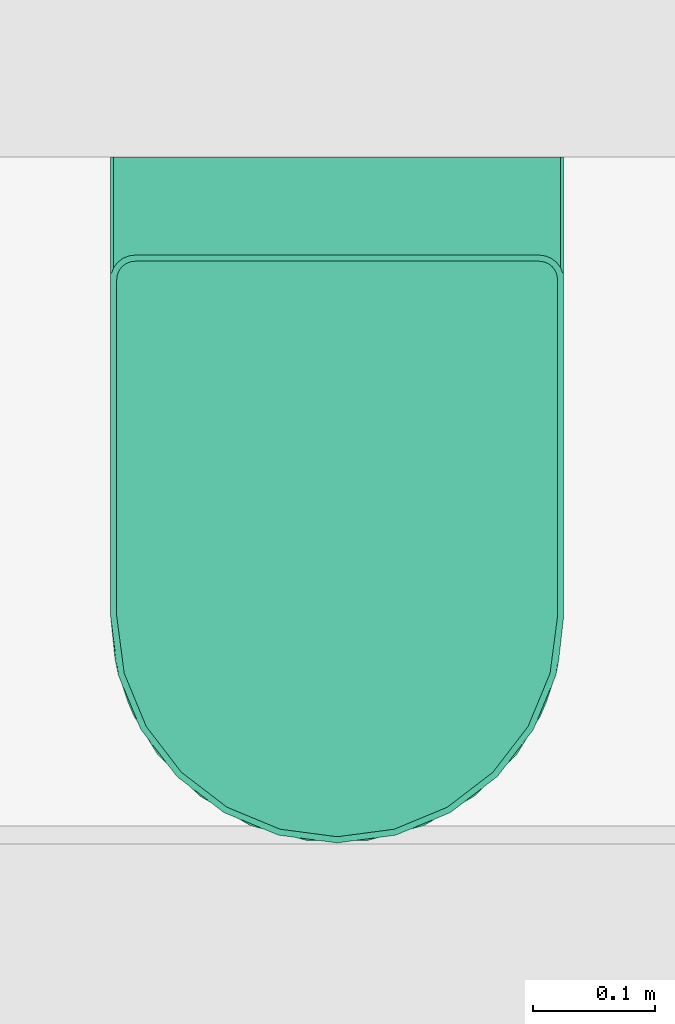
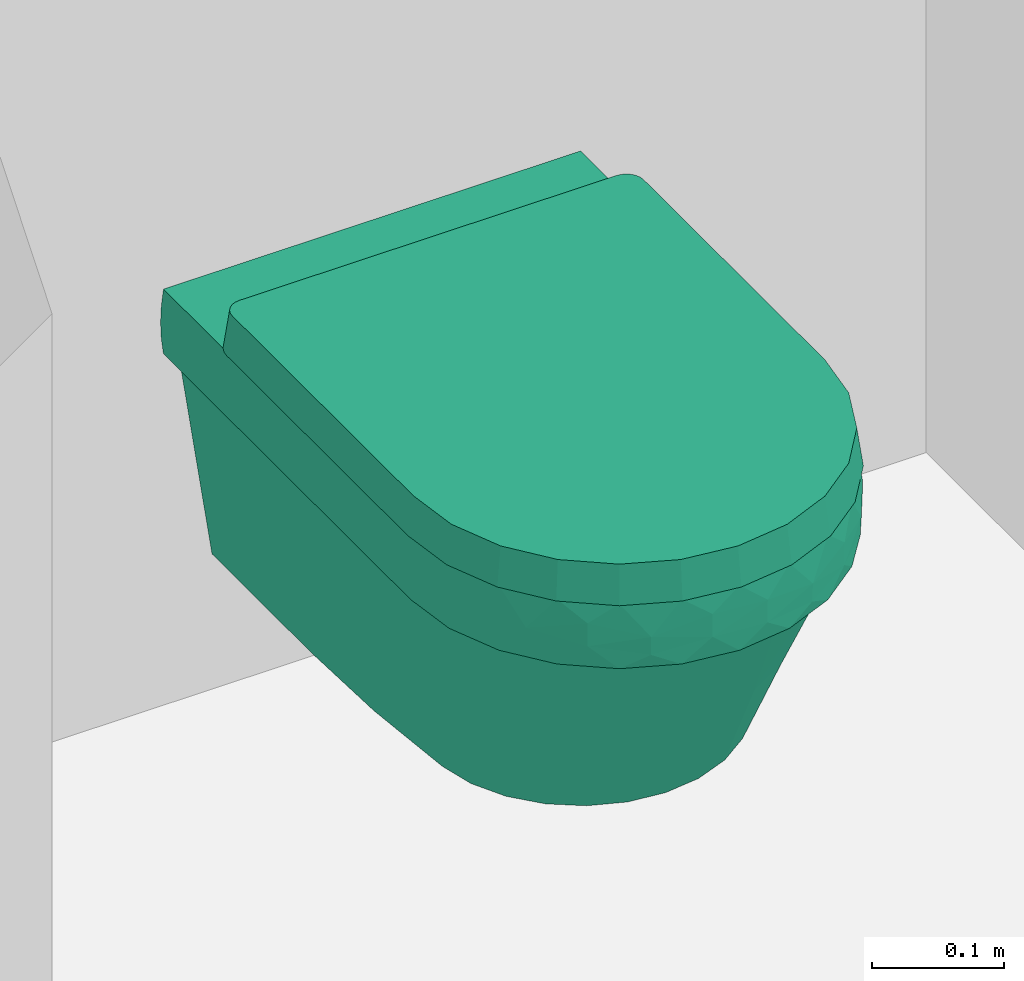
# One storey, part 30 of 57: 1 flow terminal.
"""IFC2X3 building model written with IfcOpenShell, lengths in millimetres."""

from ifc_helpers import new_model, entity, si_unit, converted_unit, direction, frame, origin, place, context, subcontext, project, spatial, faceted_brep, source, transform, mapped, material, type_object, type_shapes, element, save


model = new_model("IFC2X3")

# Units and contexts
model_context = context("Model", 3, precision=0.01, world=origin(), true_north=direction((6.123233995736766e-17, 1.0)))
plan_context = context("Plan", 3, precision=0.01, world=origin(), true_north=direction((6.123233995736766e-17, 1.0)))
body_context = subcontext(model_context, "Body", "Model", "MODEL_VIEW")
ifc_project = project(units=[si_unit("LENGTHUNIT", "METRE", prefix="MILLI"), converted_unit("PLANEANGLEUNIT", "DEGREE", entity("IfcPlaneAngleMeasure", 0.017453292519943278), si_unit("PLANEANGLEUNIT", "RADIAN"), dimensions=[0, 0, 0, 0, 0, 0, 0]), si_unit("AREAUNIT", "SQUARE_METRE")], contexts=[model_context, plan_context])

# Site, building, storey, space
site_placement = place(None, origin())
site = spatial("IfcSite", under=ifc_project, at=site_placement, Name="Default", CompositionType="ELEMENT")
building_placement = place(site_placement, origin())
building = spatial("IfcBuilding", under=site, at=building_placement, CompositionType="ELEMENT")
storey_placement = place(building_placement, frame((0.0, 0.0, 12811.000000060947)))
storey = spatial("IfcBuildingStorey", under=building, at=storey_placement, Name="5K", CompositionType="ELEMENT", Elevation=12811.000000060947)
space_placement = place(storey_placement, origin())
space = spatial("IfcSpace", under=storey, at=space_placement, Name="5-12.8", CompositionType="ELEMENT", InteriorOrExteriorSpace="INTERNAL")

# Flow terminal
ifc_material = material(Name="<Unnamed>")
distribution_element_type = type_object("IfcDistributionElementType", Name="HR_Plumbing-fixtures_Toilet_Generic_v3:Default", material=ifc_material)
shared_shape = source(origin(), body_context, "Body", "Brep", [
    faceted_brep([(92.50000000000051, -535.2146997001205, -12446.000000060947), (47.88152334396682, -553.6962778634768, -12446.000000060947), (0.0, -560.0, -12446.000000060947), (-47.8815233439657, -553.6962778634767, -12446.000000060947), (-92.4999999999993, -535.21469970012, -12446.000000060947), (-130.81475451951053, -505.81475451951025, -12446.000000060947), (-160.21469970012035, -467.49999999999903, -12446.000000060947), (-178.6962778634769, -422.8815233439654, -12446.000000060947), (-185.0, -375.0, -12446.000000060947), (-185.0, -100.0, -12446.000000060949), (-184.31851652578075, -94.82361909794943, -12446.000000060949), (-182.32050807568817, -90.0, -12446.000000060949), (-179.14213562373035, -85.85786437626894, -12446.000000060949), (-175.0, -82.67949192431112, -12446.000000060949), (-170.17638090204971, -80.68148347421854, -12446.000000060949), (-165.0, -80.0, -12446.000000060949), (165.0, -80.0, -12446.000000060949), (170.17638090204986, -80.68148347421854, -12446.000000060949), (175.0, -82.67949192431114, -12446.000000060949), (179.14213562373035, -85.85786437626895, -12446.000000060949), (182.32050807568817, -90.0, -12446.000000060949), (184.31851652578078, -94.82361909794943, -12446.000000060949), (185.0, -100.0, -12446.000000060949), (185.0, -375.0, -12446.000000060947), (178.69627786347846, -422.8815233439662, -12446.000000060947), (160.2146997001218, -467.4999999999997, -12446.000000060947), (130.81475451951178, -505.8147545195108, -12446.000000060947), (165.0, -85.0, -12411.000000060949), (-165.0, -85.0, -12411.000000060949), (-168.88228567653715, -85.51111260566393, -12411.000000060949), (-172.49999999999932, -87.00961894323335, -12411.000000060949), (-175.6066017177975, -89.39339828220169, -12411.000000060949), (-177.99038105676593, -92.49999999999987, -12411.000000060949), (-179.4888873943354, -96.11771432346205, -12411.000000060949), (-180.0, -100.0, -12411.000000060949), (-180.0, -375.0, -12411.000000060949), (-173.8666487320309, -421.58742811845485, -12411.000000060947), (-155.88457268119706, -465.0, -12411.000000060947), (-127.27922061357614, -502.2792206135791, -12411.000000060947), (-90.0, -530.8845726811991, -12411.000000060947), (-46.58742811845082, -548.8666487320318, -12411.000000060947), (0.0, -555.0, -12411.000000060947), (46.58742811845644, -548.8666487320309, -12411.000000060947), (90.0, -530.884572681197, -12411.000000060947), (127.27922061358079, -502.27922061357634, -12411.000000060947), (155.88457268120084, -465.0, -12411.000000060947), (173.86664873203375, -421.5874281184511, -12411.000000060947), (180.0, -375.0, -12411.000000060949), (180.0, -100.0, -12411.000000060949), (179.48888739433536, -96.11771432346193, -12411.000000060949), (177.99038105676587, -92.49999999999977, -12411.000000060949), (175.60660171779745, -89.39339828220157, -12411.000000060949), (172.4999999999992, -87.00961894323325, -12411.000000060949), (168.88228567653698, -85.51111260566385, -12411.000000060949)], [[[0, 1, 2, 3, 4, 5, 6, 7, 8, 9, 10, 11, 12, 13, 14, 15, 16, 17, 18, 19, 20, 21, 22, 23, 24, 25, 26]], [[27, 28, 29, 30, 31, 32, 33, 34, 35, 36, 37, 38, 39, 40, 41, 42, 43, 44, 45, 46, 47, 48, 49, 50, 51, 52, 53]], [[34, 33, 10, 9]], [[12, 11, 32, 31]], [[11, 10, 33, 32]], [[13, 30, 29, 14]], [[14, 29, 28, 15]], [[12, 31, 30, 13]], [[15, 28, 27, 16]], [[27, 53, 17, 16]], [[19, 18, 52, 51]], [[18, 17, 53, 52]], [[20, 50, 49, 21]], [[21, 49, 48, 22]], [[19, 51, 50, 20]], [[22, 48, 47, 23]], [[46, 24, 23, 47]], [[45, 25, 24, 46]], [[0, 26, 44, 43]], [[45, 44, 26, 25]], [[1, 0, 43, 42]], [[2, 1, 42, 41]], [[41, 40, 3, 2]], [[6, 37, 36, 7]], [[37, 6, 5, 38]], [[35, 8, 7, 36]], [[3, 40, 39, 4]], [[39, 38, 5, 4]], [[8, 35, 34, 9]]]),
    faceted_brep([(-91.2499999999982, -533.0496361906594, -12506.000000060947), (-129.04698756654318, -504.0469875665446, -12506.000000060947), (-158.04963619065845, -466.25, -12506.000000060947), (-176.2814632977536, -422.23447573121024, -12506.000000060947), (-182.49999999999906, -375.0, -12506.000000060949), (-182.4999999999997, 0.0, -12506.000000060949), (182.5000000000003, 0.0, -12506.000000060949), (182.5000000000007, -375.0, -12506.000000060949), (176.28146329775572, -422.2344757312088, -12506.000000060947), (158.04963619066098, -466.24999999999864, -12506.000000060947), (129.04698756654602, -504.0469875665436, -12506.000000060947), (91.25000000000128, -533.0496361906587, -12506.000000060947), (47.23447573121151, -551.2814632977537, -12506.000000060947), (0.0, -557.4999999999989, -12506.000000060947), (-47.23447573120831, -551.281463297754, -12506.000000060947), (182.5000000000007, -375.0, -12446.000000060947), (182.50000000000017, 0.0, -12446.000000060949), (-182.49999999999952, 0.0, -12446.000000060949), (-182.49999999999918, -375.0, -12446.000000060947), (-176.28146329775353, -422.23447573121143, -12446.000000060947), (-158.0496361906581, -466.25000000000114, -12446.000000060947), (-129.04698756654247, -504.0469875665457, -12446.000000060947), (-91.24999999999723, -533.0496361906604, -12446.000000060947), (-47.23447573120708, -551.2814632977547, -12446.000000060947), (0.0, -557.4999999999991, -12446.000000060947), (47.23447573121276, -551.2814632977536, -12446.000000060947), (91.25000000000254, -533.0496361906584, -12446.000000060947), (129.04698756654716, -504.04698756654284, -12446.000000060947), (158.04963619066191, -466.24999999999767, -12446.000000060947), (176.2814632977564, -422.23447573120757, -12446.000000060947), (184.37391868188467, 0.0, -12460.94800683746), (185.0, 0.0, -12476.000000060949), (184.3739186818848, 0.0, -12491.051993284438), (-184.37391868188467, 0.0, -12491.051993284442), (-185.0, 0.0, -12476.000000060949), (-184.37391868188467, 0.0, -12460.94800683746), (184.37391868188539, -375.0, -12460.94800683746), (185.0, -375.0, -12476.000000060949), (184.37391868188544, -375.0, -12491.051993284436), (179.22193525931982, -420.2391964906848, -12468.46749628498), (112.36452390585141, -521.4362980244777, -12488.347722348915), (146.12425609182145, -487.1250848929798, -12493.16272336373), (-70.79643453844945, -545.9177137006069, -12476.00000000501), (-24.092382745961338, -557.9998161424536, -12463.652277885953), (146.7703673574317, -487.6208651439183, -12475.9999999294), (170.61476036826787, -445.67094705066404, -12486.897771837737), (165.88140661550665, -456.6493815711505, -12469.605381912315), (70.79643457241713, -545.9177136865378, -12476.000000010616), (112.4934291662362, -521.6042920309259, -12467.291386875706), (-146.12425609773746, -487.12508488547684, -12493.16272336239), (-170.6147602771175, -445.67094700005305, -12486.897773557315), (24.092382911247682, -557.9998161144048, -12488.347722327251), (70.4847752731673, -545.1653000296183, -12493.162723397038), (-165.88140640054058, -456.6493822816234, -12469.605385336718), (-146.77036734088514, -487.62086516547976, -12475.999999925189), (-24.120022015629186, -558.20975569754, -12484.708613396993), (24.120021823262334, -558.2097557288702, -12467.29138684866), (180.8695297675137, -411.23491834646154, -12489.936269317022), (-112.36452329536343, -521.4362985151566, -12463.652278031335), (-112.4934298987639, -521.6042914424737, -12484.708613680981), (-70.48477528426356, -545.1653000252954, -12493.162723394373), (-184.3739188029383, -375.0, -12460.948008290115), (-185.0, -375.0, -12476.000002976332), (-179.2219343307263, -420.239200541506, -12468.467498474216), (-181.40133300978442, -410.0856400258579, -12485.261660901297), (-184.3739185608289, -375.0, -12491.051994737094)], [[[0, 1, 2, 3, 4, 5, 6, 7, 8, 9, 10, 11, 12, 13, 14]], [[15, 16, 17, 18, 19, 20, 21, 22, 23, 24, 25, 26, 27, 28, 29]], [[17, 16, 30, 31, 32, 6, 5, 33, 34, 35]], [[36, 37, 31, 30]], [[16, 15, 36, 30]], [[38, 7, 6, 32]], [[37, 38, 32, 31]], [[29, 39, 36]], [[40, 10, 41]], [[36, 15, 29]], [[42, 43, 23]], [[44, 45, 46]], [[47, 40, 48]], [[26, 25, 47]], [[49, 50, 2]], [[44, 27, 48]], [[51, 12, 52]], [[27, 44, 28]], [[53, 50, 54]], [[55, 51, 56]], [[56, 51, 47]], [[39, 57, 37]], [[54, 58, 21]], [[55, 14, 13]], [[7, 38, 57]], [[39, 37, 36]], [[42, 58, 59]], [[50, 3, 2]], [[40, 11, 10]], [[11, 52, 12]], [[8, 57, 45]], [[9, 41, 10]], [[9, 8, 45]], [[40, 44, 48]], [[45, 57, 39]], [[56, 47, 25]], [[56, 43, 55]], [[22, 42, 23]], [[46, 45, 39]], [[22, 21, 58]], [[60, 59, 0]], [[58, 42, 22]], [[20, 54, 21]], [[19, 18, 61]], [[51, 55, 13]], [[62, 63, 61]], [[26, 47, 48]], [[47, 52, 40]], [[63, 53, 19]], [[56, 24, 43]], [[19, 61, 63]], [[64, 62, 65]], [[42, 60, 55]], [[25, 24, 56]], [[59, 54, 49]], [[0, 14, 60]], [[27, 26, 48]], [[64, 50, 63]], [[1, 49, 2]], [[53, 63, 50]], [[4, 3, 65]], [[24, 23, 43]], [[54, 59, 58]], [[64, 3, 50]], [[29, 28, 46]], [[12, 51, 13]], [[42, 55, 43]], [[41, 45, 44]], [[1, 0, 59]], [[29, 46, 39]], [[28, 44, 46]], [[54, 20, 53]], [[19, 53, 20]], [[40, 52, 11]], [[51, 52, 47]], [[45, 41, 9]], [[40, 41, 44]], [[55, 60, 14]], [[59, 60, 42]], [[59, 49, 1]], [[50, 49, 54]], [[7, 57, 8]], [[57, 38, 37]], [[62, 64, 63]], [[3, 64, 65]], [[35, 61, 18]], [[17, 35, 18]], [[34, 61, 35]], [[34, 62, 61]], [[5, 4, 65]], [[62, 33, 65]], [[5, 65, 33]], [[34, 33, 62]]]),
    faceted_brep([(170.0, -375.0, -12506.000000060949), (170.0, 0.0, -12506.000000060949), (-170.0, 0.0, -12506.000000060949), (-170.0, -375.0, -12506.000000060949), (-164.20739046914, -418.9992376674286, -12506.000000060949), (-147.22431864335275, -460.0, -12506.000000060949), (-120.20815280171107, -495.2081528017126, -12506.000000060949), (-85.0, -522.2243186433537, -12506.000000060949), (-43.99923766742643, -539.2073904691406, -12506.000000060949), (0.0, -545.0, -12506.000000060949), (43.99923766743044, -539.2073904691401, -12506.000000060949), (85.0, -522.224318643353, -12506.000000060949), (120.20815280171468, -495.20815280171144, -12506.000000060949), (147.224318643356, -460.0, -12506.000000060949), (164.2073904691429, -418.99923766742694, -12506.000000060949), (-140.0, -150.0, -12706.000000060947), (-140.0, 0.0, -12706.000000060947), (140.0, 0.0, -12706.000000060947), (140.0, -150.0, -12706.000000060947), (138.629806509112, -195.257868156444, -12706.000000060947), (137.25961308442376, -240.51573412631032, -12706.000000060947), (133.15405231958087, -285.60781494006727, -12706.000000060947), (129.04849039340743, -330.699908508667, -12706.000000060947), (121.54313718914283, -361.12229181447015, -12706.000000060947), (106.97640292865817, -388.86507440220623, -12706.000000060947), (86.19458188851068, -412.3164634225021, -12706.000000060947), (60.40505081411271, -430.1139862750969, -12706.000000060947), (31.106123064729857, -441.2236471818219, -12706.000000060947), (0.0, -445.0, -12706.000000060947), (-31.106123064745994, -441.2236471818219, -12706.000000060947), (-60.40505081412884, -430.11398627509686, -12706.000000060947), (-86.1945818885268, -412.3164634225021, -12706.000000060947), (-106.97640292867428, -388.86507440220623, -12706.000000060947), (-121.54313718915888, -361.12229181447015, -12706.000000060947), (-129.04849039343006, -330.6999085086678, -12706.000000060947), (-133.15405183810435, -285.6078202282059, -12706.000000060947), (-137.25961308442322, -240.51573412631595, -12706.000000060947), (-138.62980634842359, -195.25787346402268, -12706.000000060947), (159.39339761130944, -295.45048208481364, -12576.710682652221), (150.60660238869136, -229.54951791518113, -12635.289317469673), (143.52703751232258, -346.36235827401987, -12635.289311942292), (156.76351875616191, -360.68117913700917, -12570.644656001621), (155.38792293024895, -359.1931016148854, -12577.362825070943), (136.07910358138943, -407.7451780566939, -12606.000018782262), (144.4628484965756, -378.65444268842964, -12611.413468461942), (88.6637225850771, -465.93257853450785, -12606.000001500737), (116.08235687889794, -439.8543237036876, -12606.000003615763), (-136.0791098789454, -407.7451788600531, -12606.00000016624), (-146.76963007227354, -381.58655237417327, -12600.586539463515), (-155.52145401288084, -359.3375514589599, -12576.710682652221), (-143.66056550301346, -346.5068047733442, -12634.63718462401), (55.573859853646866, -484.30716171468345, -12606.000000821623), (18.928354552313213, -493.79904274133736, -12605.99999963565), (-55.573860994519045, -484.3071615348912, -12606.000000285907), (-18.928355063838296, -493.79904230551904, -12606.000000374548), (-143.52703638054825, -346.36235704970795, -12635.289317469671), (-88.66372427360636, -465.9325779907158, -12606.000000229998), (-116.08235986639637, -439.8543221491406, -12606.000000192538), (-150.6066032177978, -229.54952413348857, -12635.289311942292), (-160.30330160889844, -302.27476206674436, -12570.64465600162)], [[[0, 1, 2, 3, 4, 5, 6, 7, 8, 9, 10, 11, 12, 13, 14]], [[15, 16, 17, 18, 19, 20, 21, 22, 23, 24, 25, 26, 27, 28, 29, 30, 31, 32, 33, 34, 35, 36, 37]], [[18, 17, 1, 0, 38, 39]], [[40, 22, 21, 20, 41, 42]], [[38, 20, 19, 18, 39]], [[38, 0, 41]], [[20, 38, 41]], [[43, 14, 13]], [[22, 44, 23]], [[43, 24, 23]], [[42, 14, 44]], [[26, 25, 45]], [[25, 46, 45]], [[47, 48, 33]], [[24, 46, 25]], [[48, 3, 49, 50]], [[26, 51, 27]], [[24, 43, 46]], [[23, 44, 43]], [[14, 42, 41, 0]], [[26, 45, 51]], [[11, 45, 12]], [[46, 43, 13]], [[52, 28, 27]], [[45, 46, 12]], [[11, 51, 45]], [[10, 51, 11]], [[52, 51, 10]], [[27, 51, 52]], [[10, 9, 52]], [[12, 46, 13]], [[30, 29, 53]], [[8, 54, 9]], [[33, 50, 55, 34]], [[30, 56, 31]], [[33, 32, 47]], [[5, 57, 6]], [[32, 57, 47]], [[57, 32, 31]], [[47, 4, 48]], [[48, 4, 3]], [[28, 54, 29]], [[53, 54, 8]], [[30, 53, 56]], [[54, 52, 9]], [[31, 56, 57]], [[56, 53, 7]], [[48, 50, 33]], [[57, 56, 6]], [[5, 47, 57]], [[6, 56, 7]], [[29, 54, 53]], [[7, 53, 8]], [[4, 47, 5]], [[43, 44, 14]], [[44, 22, 40, 42]], [[28, 52, 54]], [[58, 15, 37, 36, 59]], [[35, 34, 55, 50, 49, 36]], [[49, 3, 59]], [[36, 49, 59]], [[2, 16, 15, 58, 59, 3]], [[1, 17, 16, 2]]]),
])
type_shapes(distribution_element_type, [shared_shape])
flow_terminal_placement = place(space_placement, frame((6754.998598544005, 4595.0, 12811.000000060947)))
element("IfcFlowTerminal", 1, at=flow_terminal_placement, inside=space, type_object=distribution_element_type, material=ifc_material, Name="HR_Plumbing-fixtures_Toilet_Generic_v3:Default", ObjectType="HR_Plumbing-fixtures_Toilet_Generic_v3:Default", context=body_context, shape_type="MappedRepresentation", body=[
    mapped(shared_shape, transform((0.0, 0.0, 0.0), scale=1.0)),
])

save(model, "model.ifc")
